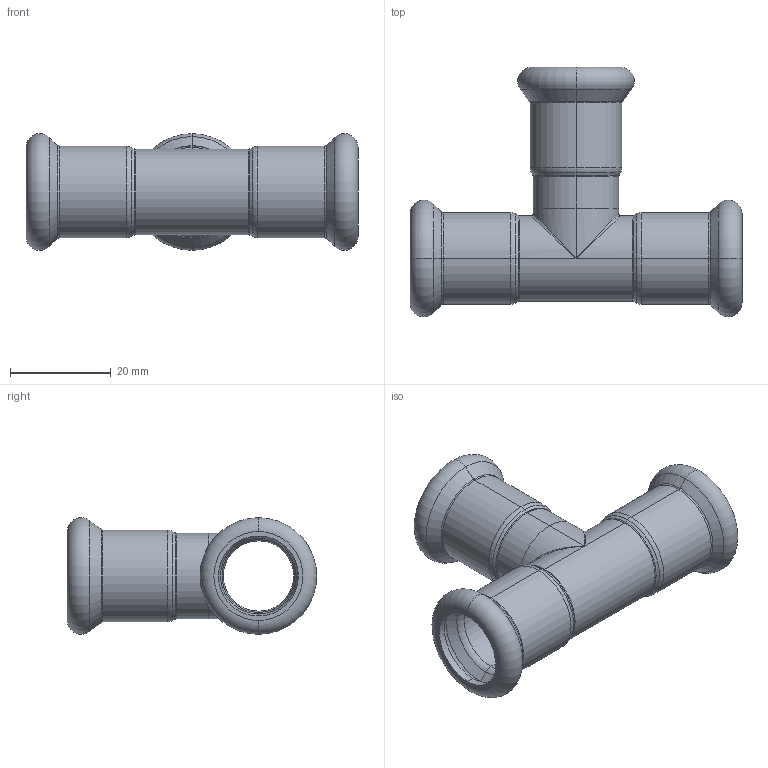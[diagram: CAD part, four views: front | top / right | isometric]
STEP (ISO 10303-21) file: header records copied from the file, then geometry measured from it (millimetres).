
FILE_DESCRIPTION (( 'STEP AP203' ), '1' );
FILE_NAME ('GDA5181.STEP', '2019-01-14T01:44:54', ( '' ), ( '' ), 'SwSTEP 2.0', 'SolidWorks 2015', '' );
FILE_SCHEMA (( 'CONFIG_CONTROL_DESIGN' ));
Length unit declared in the file: millimetre
Products named in the file (3): GDA5181; T(R)-¢ñ-15¡Á15''; T-ｉ-01-15
Assembly tree (2 placements, depth 2):
  GDA5181
    T(R)-¢ñ-15¡Á15''
    T-ｉ-01-15
Bounding box: 66 x 49.6 x 23.2 mm (x, y, z)
Volume: 8100.9 mm3; surface area: 11177.9 mm2
Topology: 2 solids, 2 shells, 115 faces, 235 edges, 120 vertices
Faces by surface type: torus 48, cylinder 32, cone 24, plane 8, bspline 3
Entity records: 3491 total; most frequent: CARTESIAN_POINT 733, DIRECTION 620, ORIENTED_EDGE 458, AXIS2_PLACEMENT_3D 281, EDGE_CURVE 229, CIRCLE 164, EDGE_LOOP 123, VERTEX_POINT 120
